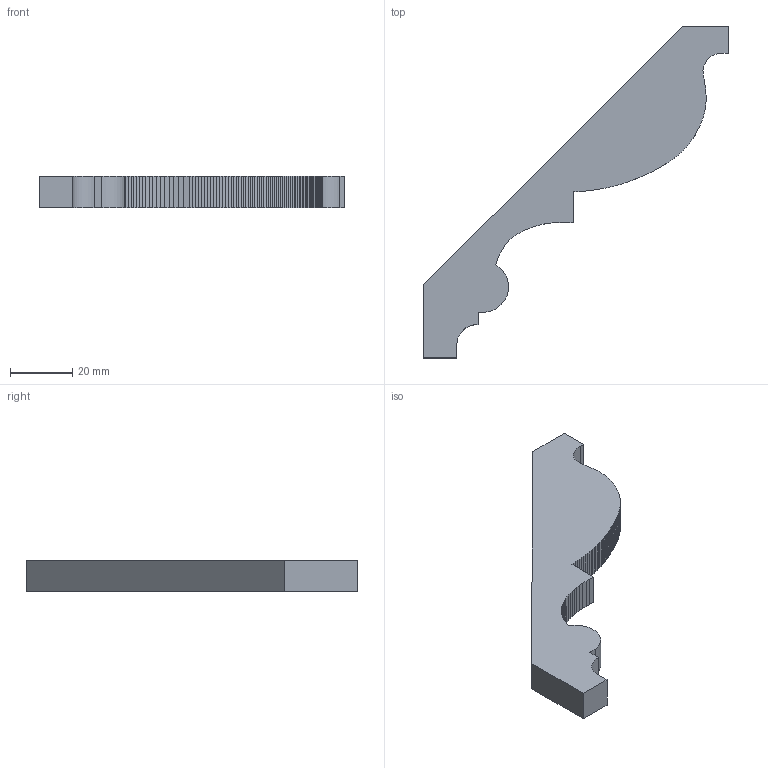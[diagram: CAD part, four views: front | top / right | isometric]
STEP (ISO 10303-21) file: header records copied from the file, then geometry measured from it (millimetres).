
FILE_DESCRIPTION (( 'STEP AP203' ), '1' );
FILE_NAME ('AB408FJ.STEP', '2024-02-22T13:00:03', ( '' ), ( '' ), 'SwSTEP 2.0', 'SolidWorks 2020', '' );
FILE_SCHEMA (( 'CONFIG_CONTROL_DESIGN' ));
Length unit declared in the file: millimetre
Products named in the file (1): AB408FJ
Bounding box: 98.19 x 106.79 x 10 mm (x, y, z)
Volume: 25905.8 mm3; surface area: 8542.8 mm2
Topology: 1 solids, 1 shells, 111 faces, 327 edges, 218 vertices
Faces by surface type: plane 108, cylinder 3
Entity records: 3704 total; most frequent: CARTESIAN_POINT 657, ORIENTED_EDGE 654, DIRECTION 557, EDGE_CURVE 327, LINE 321, VECTOR 321, VERTEX_POINT 218, AXIS2_PLACEMENT_3D 118
